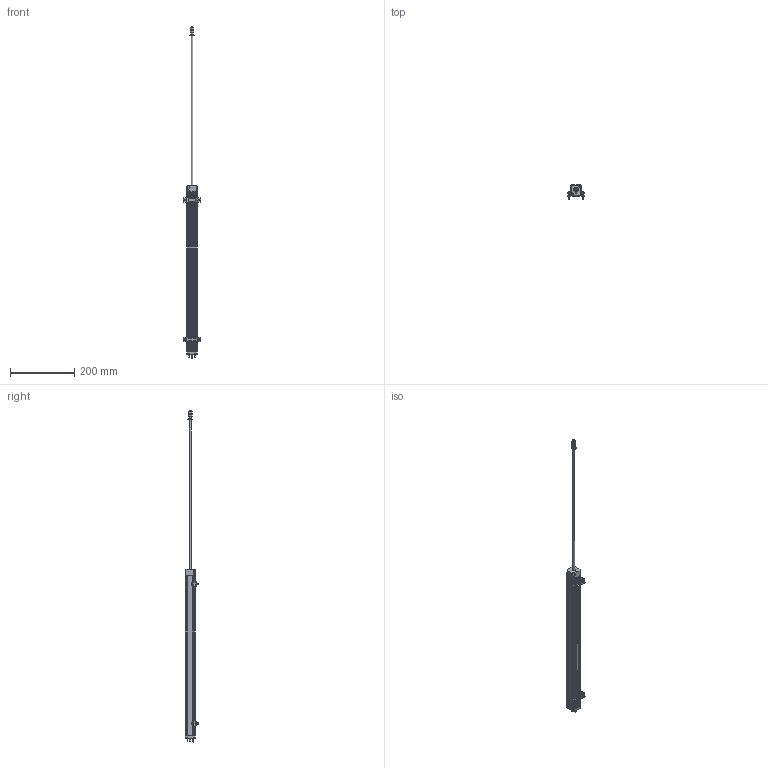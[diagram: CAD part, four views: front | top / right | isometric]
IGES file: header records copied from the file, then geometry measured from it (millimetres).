
Start section: SolidWorks IGES file using analytic representation for surfaces
Global section: file name: E:\Salzinger\I-net_3D\LWH_Essentials\LWH_prts\LWH_450.IGS; native system: SolidWorks 2008; preprocessor: SolidWorks 2008; author: salzinger; date: 081106.131620; units: millimetre
Bounding box: 56 x 43.08 x 1036 mm (x, y, z)
Surface area: 126166 mm2 (no closed solid volume)
Topology: 0 solids, 0 shells, 1066 faces, 13290 edges, 13258 vertices
Faces by surface type: bspline 560, revolution 506
